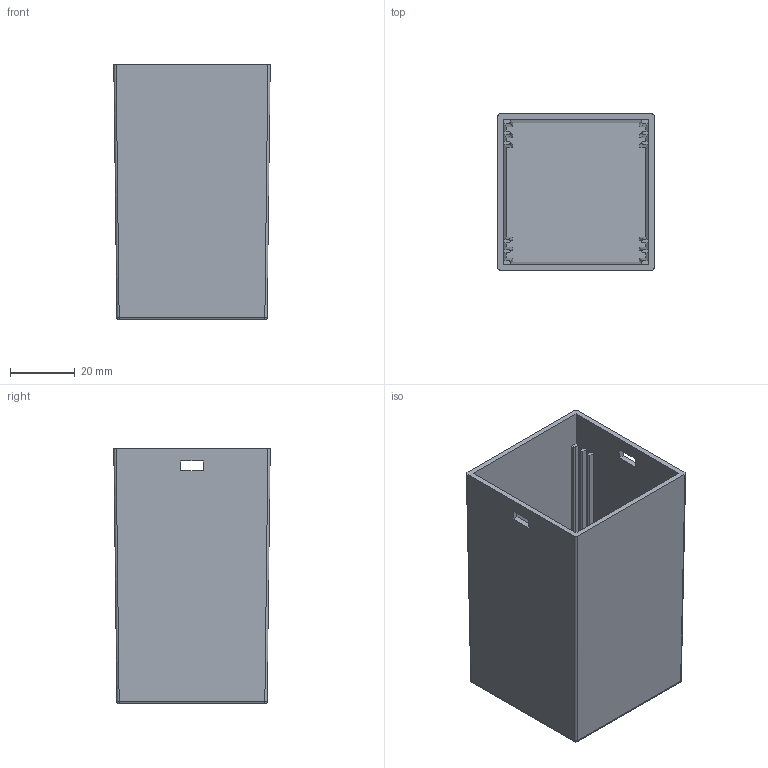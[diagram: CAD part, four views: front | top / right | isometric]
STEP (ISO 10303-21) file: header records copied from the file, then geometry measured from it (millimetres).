
FILE_DESCRIPTION (( 'STEP AP214' ), '1' );
FILE_NAME ('Caixa PP50.STEP', '2018-07-02T09:02:37', ( 'aaa' ), ( '' ), 'SwSTEP 2.0', 'SolidWorks 2013', '' );
FILE_SCHEMA (( 'AUTOMOTIVE_DESIGN' ));
Length unit declared in the file: millimetre
Products named in the file (1): Caixa PP50
Bounding box: 48.2 x 48.2 x 78.8 mm (x, y, z)
Volume: 29413 mm3; surface area: 35385.8 mm2
Topology: 1 solids, 1 shells, 102 faces, 278 edges, 180 vertices
Faces by surface type: plane 64, cylinder 34, sphere 4
Entity records: 3188 total; most frequent: CARTESIAN_POINT 729, ORIENTED_EDGE 556, DIRECTION 440, EDGE_CURVE 278, LINE 210, VECTOR 210, VERTEX_POINT 180, AXIS2_PLACEMENT_3D 115
